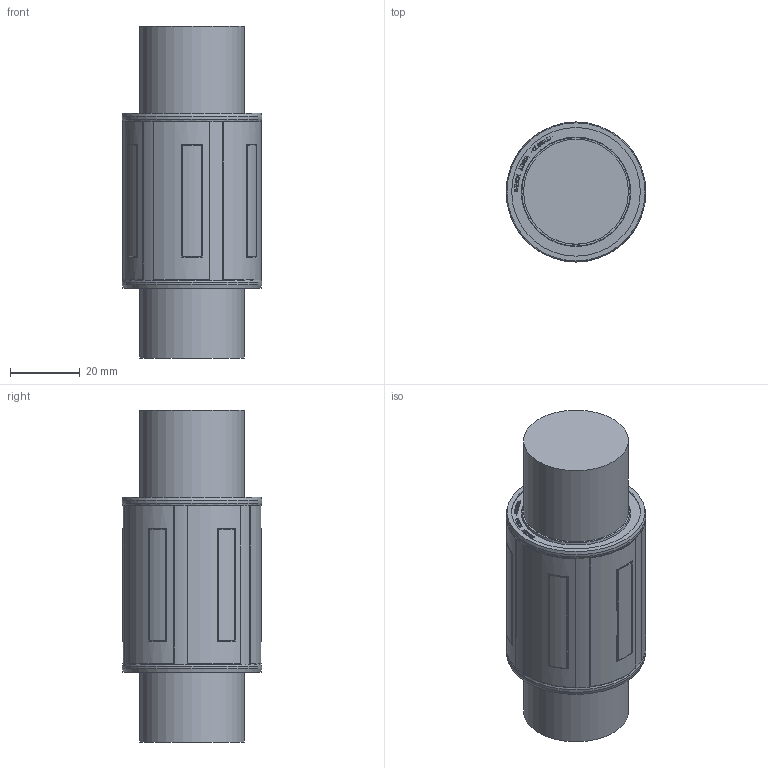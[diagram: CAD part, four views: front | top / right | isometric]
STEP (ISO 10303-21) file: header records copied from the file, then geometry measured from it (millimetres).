
FILE_DESCRIPTION(/* description */ (''),/* implementation_level */ '2;1');
FILE_NAME(/* name */ 'C:\Users\조경제\OneDrive - mysamick.com\바탕 화면\STP\STP_rev1\CLB30UU.stp',/* time_stamp */ '2025-02-05T13:39:42+09:00',/* author */ ('조경제'),/* organization */ (''),/* preprocessor_version */ 'ST-DEVELOPER v17',/* originating_system */ 'Autodesk Inventor 2019',/* authorisation */ '');
FILE_SCHEMA (('AUTOMOTIVE_DESIGN { 1 0 10303 214 3 1 1 }'));
Length unit declared in the file: millimetre
Products named in the file (1): CLB30UU
Bounding box: 40 x 40 x 95 mm (x, y, z)
Volume: 93605.7 mm3; surface area: 13694.2 mm2
Topology: 1 solids, 1 shells, 1130 faces, 3106 edges, 2058 vertices
Faces by surface type: bspline 728, plane 330, cylinder 50, torus 14, cone 8
Full cylindrical faces by diameter (mm): 30 x2, 37 x2, 37.1 x2, 40 x2
Entity records: 39251 total; most frequent: CARTESIAN_POINT 14115, ORIENTED_EDGE 6212, EDGE_CURVE 3106, DIRECTION 2720, VERTEX_POINT 2058, LINE 1434, VECTOR 1434, B_SPLINE_CURVE_WITH_KNOTS 1432
